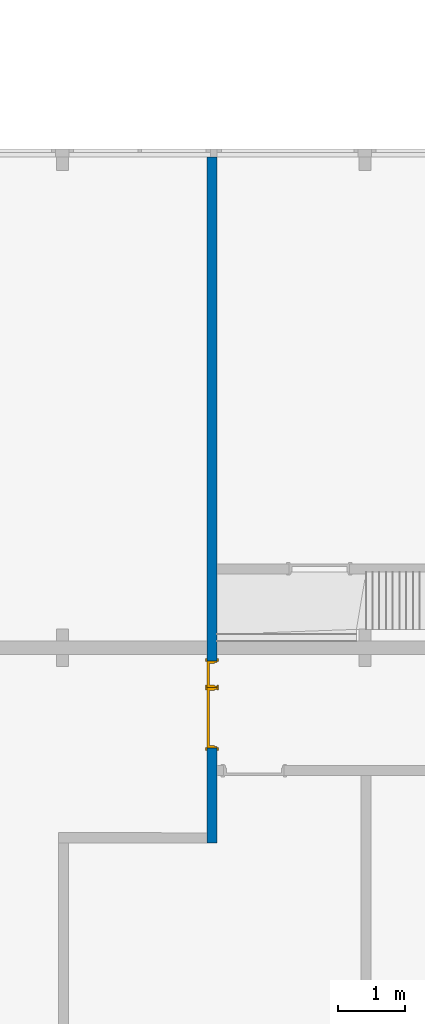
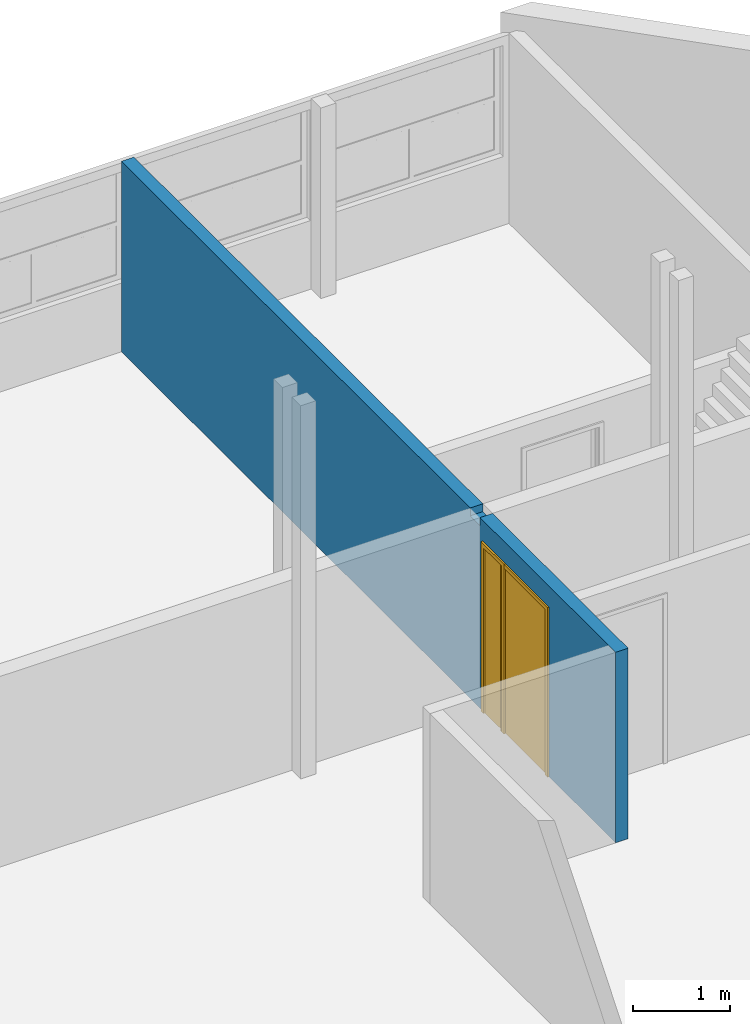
# One storey, part 10 of 48: 2 doors, 1 wall, 2 openings.
"""IFC2X3 building model written with IfcOpenShell, lengths in millimetres."""

import ifcopenshell
import ifcopenshell.guid

model = None  # the IFC model being written
_history = None  # IfcOwnerHistory: only IFC2X3 demands one
_inside = {}  # id of a spatial element -> (the spatial element, [elements in it])
_under = {}  # id of a project, library or spatial element -> (it, [spatial elements below it])
_declared = {}  # id of a project -> (the project, [libraries it declares])
_typed = {}  # id of a type object -> (the type object, [elements of that type])
_made_of = {}  # id of a material, layer set ... -> (it, [elements and type objects made of it])


def new_model(schema):
    """Start an empty IFC model of exactly this schema.

    Asked for "IFC4X3", IfcOpenShell would pick the latest addendum, in which some entities
    have other attributes; the version numbers below select the first issue.
    IFC2X3 requires an IfcOwnerHistory on every rooted entity: one is made here for all.
    """
    global model, _history
    if schema == "IFC4X3":
        model = ifcopenshell.file(schema_version=(4, 3, 0, 0))
    else:
        model = ifcopenshell.file(schema=schema)
    _inside.clear()
    _under.clear()
    _declared.clear()
    _typed.clear()
    _made_of.clear()
    _history = None
    if model.schema == "IFC2X3":
        org = make("IfcOrganization", Name="unknown")
        user = make(
            "IfcPersonAndOrganization",
            ThePerson=make("IfcPerson", FamilyName="unknown"),
            TheOrganization=org,
        )
        app = make(
            "IfcApplication",
            ApplicationDeveloper=org,
            Version="unknown",
            ApplicationFullName="unknown",
            ApplicationIdentifier="unknown",
        )
        _history = make(
            "IfcOwnerHistory",
            OwningUser=user,
            OwningApplication=app,
            ChangeAction="ADDED",
            CreationDate=0,
        )
    return model


def make(cls, **values):
    """One entity of the class cls with the attributes given. An attribute that is None is left unset."""
    return model.create_entity(
        cls, **{name: value for name, value in values.items() if value is not None}
    )


def entity(cls, *values):
    """Any entity or typed value of the class cls, its attributes in the order of the schema. None: left unset."""
    e = model.create_entity(cls)
    for i, value in enumerate(values):
        if value is not None:
            e[i] = value
    return e


def rooted(cls, **values):
    """An entity with a GlobalId (a new one), such as an element, a storey or a relation."""
    return make(cls, GlobalId=ifcopenshell.guid.new(), OwnerHistory=_history, **values)


def si_unit(unit_type, name, prefix=None):
    """IfcSIUnit, for example si_unit("LENGTHUNIT", "METRE", prefix="MILLI")."""
    return make("IfcSIUnit", UnitType=unit_type, Prefix=prefix, Name=name)


def converted_unit(unit_type, name, factor, base, dimensions=None, offset=None):
    """IfcConversionBasedUnit, such as the inch: factor (a typed value) times the base unit."""
    return make(
        "IfcConversionBasedUnit"
        if offset is None
        else "IfcConversionBasedUnitWithOffset",
        ConversionOffset=offset,
        Dimensions=None
        if dimensions is None
        else entity("IfcDimensionalExponents", *dimensions),
        UnitType=unit_type,
        Name=name,
        ConversionFactor=make(
            "IfcMeasureWithUnit", ValueComponent=factor, UnitComponent=base
        ),
    )


def derived_unit(unit_type, elements):
    """IfcDerivedUnit: a product of units, each with its exponent."""
    return make(
        "IfcDerivedUnit",
        Elements=[
            make("IfcDerivedUnitElement", Unit=unit, Exponent=power)
            for unit, power in elements
        ],
        UnitType=unit_type,
    )


def money_unit(currency):
    """IfcMonetaryUnit."""
    return make("IfcMonetaryUnit", Currency=currency)


def assignment(units):
    """IfcUnitAssignment: the units of a project."""
    return None if units is None else make("IfcUnitAssignment", Units=units)


def point(xyz):
    """IfcCartesianPoint."""
    return None if xyz is None else make("IfcCartesianPoint", Coordinates=xyz)


def direction(xyz):
    """IfcDirection."""
    return None if xyz is None else make("IfcDirection", DirectionRatios=xyz)


def frame(location, z_axis=None, x_axis=None):
    """IfcAxis2Placement3D, a coordinate frame: its origin and axes. An axis left out is left unset."""
    return make(
        "IfcAxis2Placement3D",
        Location=point(location),
        Axis=direction(z_axis),
        RefDirection=direction(x_axis),
    )


def origin_with_axes():
    """The frame at (0, 0, 0) with the z axis (0, 0, 1) and the x axis (1, 0, 0) written out."""
    return frame((0.0, 0.0, 0.0), z_axis=(0.0, 0.0, 1.0), x_axis=(1.0, 0.0, 0.0))


def place(relative_to, where):
    """IfcLocalPlacement: puts the frame where relative to a parent placement (None: the world)."""
    return make(
        "IfcLocalPlacement", PlacementRelTo=relative_to, RelativePlacement=where
    )


def context(
    kind, dimensions, precision=None, world=None, true_north=None, identifier=None
):
    """IfcGeometricRepresentationContext, for example the 3D "Model" context."""
    return make(
        "IfcGeometricRepresentationContext",
        ContextIdentifier=identifier,
        ContextType=kind,
        CoordinateSpaceDimension=dimensions,
        Precision=precision,
        WorldCoordinateSystem=world,
        TrueNorth=true_north,
    )


def subcontext(parent, identifier, kind, view, scale=None):
    """IfcGeometricRepresentationSubContext, for example "Body" below "Model"."""
    return make(
        "IfcGeometricRepresentationSubContext",
        ContextIdentifier=identifier,
        ContextType=kind,
        ParentContext=parent,
        TargetScale=scale,
        TargetView=view,
    )


def project(units=None, contexts=None):
    """IfcProject with its units and contexts."""
    return rooted(
        "IfcProject",
        Name="project",
        RepresentationContexts=contexts,
        UnitsInContext=assignment(units),
    )


def spatial(cls, under=None, at=None, **own):
    """A site, building, storey or space (cls), placed at a placement, below another one or the project."""
    s = rooted(cls, ObjectPlacement=at, **own)
    if under is not None:
        _under.setdefault(under.id(), (under, []))[1].append(s)
    return s


def faces_of(points, faces, orient=None, outer=None):
    """IfcFace entities. A face is a list of loops; a loop is a list of indices into points, from 0.

    orient and outer hold one flag for each loop. By default every Orientation is true, the
    first loop of a face is its IfcFaceOuterBound and the others are IfcFaceBound.
    """
    made = []
    for i, loops in enumerate(faces):
        bounds = []
        for j, loop in enumerate(loops):
            is_outer = j == 0 if outer is None else outer[i][j]
            bounds.append(
                make(
                    "IfcFaceOuterBound" if is_outer else "IfcFaceBound",
                    Bound=make("IfcPolyLoop", Polygon=[points[k] for k in loop]),
                    Orientation=True if orient is None else orient[i][j],
                )
            )
        made.append(make("IfcFace", Bounds=bounds))
    return made


def faceted_brep(points, faces, orient=None, outer=None, voids=None):
    """IfcFacetedBrep: a solid bounded by flat faces; with voids (closed shells), ...WithVoids."""
    shared = [point(p) for p in points]
    hull = make("IfcClosedShell", CfsFaces=faces_of(shared, faces, orient, outer))
    if voids is None:
        return make("IfcFacetedBrep", Outer=hull)
    return make(
        "IfcFacetedBrepWithVoids",
        Outer=hull,
        Voids=[
            make(cls, CfsFaces=faces_of(shared, fs, o, b)) for cls, fs, o, b in voids
        ],
    )


def shape(context_of_items, identifier, shape_type, items):
    """IfcShapeRepresentation: the items that make up one representation, for example the "Body"."""
    return make(
        "IfcShapeRepresentation",
        ContextOfItems=context_of_items,
        RepresentationIdentifier=identifier,
        RepresentationType=shape_type,
        Items=items,
    )


def source(mapping_origin, context_of_items, identifier, shape_type, items):
    """IfcRepresentationMap: a shape defined once, which mapped items show again and again."""
    return make(
        "IfcRepresentationMap",
        MappingOrigin=mapping_origin,
        MappedRepresentation=shape(context_of_items, identifier, shape_type, items),
    )


def transform(
    local_origin,
    x_axis=None,
    y_axis=None,
    z_axis=None,
    scale=None,
    scale2=None,
    scale3=None,
    uniform=True,
):
    """IfcCartesianTransformationOperator3D, or its non-uniform kind. x_axis, y_axis, z_axis: its Axis1, 2, 3."""
    if uniform:
        return make(
            "IfcCartesianTransformationOperator3D",
            Axis1=direction(x_axis),
            Axis2=direction(y_axis),
            LocalOrigin=point(local_origin),
            Scale=scale,
            Axis3=direction(z_axis),
        )
    return make(
        "IfcCartesianTransformationOperator3DnonUniform",
        Axis1=direction(x_axis),
        Axis2=direction(y_axis),
        LocalOrigin=point(local_origin),
        Scale=scale,
        Axis3=direction(z_axis),
        Scale2=scale2,
        Scale3=scale3,
    )


def mapped(mapping_source, mapping_target):
    """IfcMappedItem: shows the shape of a source again, moved by a transform."""
    return make(
        "IfcMappedItem", MappingSource=mapping_source, MappingTarget=mapping_target
    )


def material(Name=None, Category=None):
    """IfcMaterial."""
    return make("IfcMaterial", Name=Name, Category=Category)


def made_of(thing, what):
    """Note that an element or type object is made of a material, layer set ...; save() writes the relation."""
    if what is not None:
        _made_of.setdefault(what.id(), (what, []))[1].append(thing)
    return thing


def type_object(cls, material=None, **own):
    """A type object (cls), such as IfcWallType, which elements share."""
    return made_of(rooted(cls, **own), material)


def element(
    cls,
    number,
    at=None,
    inside=None,
    cuts=None,
    type_object=None,
    material=None,
    context=None,
    identifier="Body",
    shape_type=None,
    held_by="IfcProductDefinitionShape",
    body=None,
    shapes=None,
    **own,
):
    """One element of the class cls, such as IfcWall. Its Tag is "e" and its number.

    at: its placement. inside: the storey or other place that contains it. cuts: it is an
    opening in that element (IfcRelVoidsElement). A single representation is given by context,
    identifier, shape_type and body (its items); several are given by shapes. held_by: the class
    of the entity that holds the representations. save() writes the other relations.
    """
    e = rooted(cls, Tag="e%d" % number, ObjectPlacement=at, **own)
    if body is not None:
        shapes = [shape(context, identifier, shape_type, body)]
    if shapes is not None:
        e.Representation = make(held_by, Representations=shapes)
    if inside is not None:
        _inside.setdefault(inside.id(), (inside, []))[1].append(e)
    if cuts is not None:
        rooted(
            "IfcRelVoidsElement", RelatingBuildingElement=cuts, RelatedOpeningElement=e
        )
    if type_object is not None:
        _typed.setdefault(type_object.id(), (type_object, []))[1].append(e)
    return made_of(e, material)


def fill(opening, filler):
    """IfcRelFillsElement: the door or window that sits in an opening."""
    return rooted(
        "IfcRelFillsElement",
        RelatingOpeningElement=opening,
        RelatedBuildingElement=filler,
    )


def aggregate(whole, parts):
    """IfcRelAggregates: a whole, such as a stair, and the parts it consists of."""
    return rooted("IfcRelAggregates", RelatingObject=whole, RelatedObjects=parts)


def save(model, path):
    """Write the relations noted so far, then the file.

    IfcRelAggregates (storeys below a building ...), IfcRelContainedInSpatialStructure (elements
    in a storey), IfcRelDefinesByType, IfcRelAssociatesMaterial and IfcRelDeclares: one each for
    every whole, place, type object, material and project.
    """
    for whole, parts in _under.values():
        aggregate(whole, parts)
    for where, things in _inside.values():
        rooted(
            "IfcRelContainedInSpatialStructure",
            RelatedElements=things,
            RelatingStructure=where,
        )
    for kind, things in _typed.values():
        rooted("IfcRelDefinesByType", RelatedObjects=things, RelatingType=kind)
    for what, things in _made_of.values():
        rooted("IfcRelAssociatesMaterial", RelatedObjects=things, RelatingMaterial=what)
    for by, libraries in _declared.values():
        rooted("IfcRelDeclares", RelatingContext=by, RelatedDefinitions=libraries)
    model.write(path)


model = new_model("IFC2X3")

# Units and contexts
model_context = context("Model", 3, precision=0.01, world=origin_with_axes(), true_north=direction((0.0, 1.0)))
body_context = subcontext(model_context, "Body", "Model", "MODEL_VIEW")
ifc_project = project(units=[si_unit("LENGTHUNIT", "METRE", prefix="MILLI"), si_unit("AREAUNIT", "SQUARE_METRE"), si_unit("VOLUMEUNIT", "CUBIC_METRE"), converted_unit("PLANEANGLEUNIT", "DEGREE", entity("IfcPlaneAngleMeasure", 0.0174532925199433), si_unit("PLANEANGLEUNIT", "RADIAN"), dimensions=[0, 0, 0, 0, 0, 0, 0]), money_unit("USD"), converted_unit("TIMEUNIT", "Year", entity("IfcTimeMeasure", 31557600.0), si_unit("TIMEUNIT", "SECOND"), dimensions=[0, 0, 1, 0, 0, 0, 0]), si_unit("MASSUNIT", "GRAM", prefix="KILO"), si_unit("THERMODYNAMICTEMPERATUREUNIT", "DEGREE_CELSIUS"), si_unit("LUMINOUSINTENSITYUNIT", "LUMEN"), si_unit("ENERGYUNIT", "JOULE", prefix="MEGA"), derived_unit("THERMALCONDUCTANCEUNIT", [(si_unit("POWERUNIT", "WATT"), 1), (si_unit("LENGTHUNIT", "METRE"), -1), (si_unit("THERMODYNAMICTEMPERATUREUNIT", "KELVIN"), -1)]), derived_unit("SPECIFICHEATCAPACITYUNIT", [(si_unit("ENERGYUNIT", "JOULE"), 1), (si_unit("MASSUNIT", "GRAM", prefix="KILO"), -1), (si_unit("THERMODYNAMICTEMPERATUREUNIT", "KELVIN"), -1)]), derived_unit("MASSDENSITYUNIT", [(si_unit("MASSUNIT", "GRAM", prefix="KILO"), 1), (si_unit("VOLUMEUNIT", "CUBIC_METRE"), -1)])], contexts=[model_context])

# Site, building, storey
site_placement = place(None, origin_with_axes())
site = spatial("IfcSite", under=ifc_project, at=site_placement, Name="Site", CompositionType="ELEMENT")
building_placement = place(site_placement, origin_with_axes())
building = spatial("IfcBuilding", under=site, at=building_placement, Name="Building", CompositionType="ELEMENT")
storey_placement = place(building_placement, frame((0.0, 0.0, 3300.0), z_axis=(0.0, 0.0, 1.0), x_axis=(1.0, 0.0, 0.0)))
storey = spatial("IfcBuildingStorey", under=building, at=storey_placement, Name="1 ETG", CompositionType="ELEMENT", Elevation=3300.0)

# Wall, openings, doors
ifc_material = material(Name="GENERIC - INTERNAL FILLER")
wall_type = type_object("IfcWallType", Name="GENERIC - INTERNAL FILLER 150", PredefinedType="NOTDEFINED")
wall_placement = place(storey_placement, frame((15800.00000000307, 21799.96990850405, 0.0), z_axis=(0.0, 0.0, 1.0), x_axis=(0.0, -1.0, 0.0)))
wall = element("IfcWall", 1, at=wall_placement, inside=storey, type_object=wall_type, material=ifc_material, Name="SW - 001", context=body_context, shape_type="Brep", body=[
    faceted_brep([(7491.73903015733, 0.0, 2100.0), (7491.73903015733, 0.0, 0.0), (0.0, 0.0, 0.0), (0.0, 0.0, 2400.0), (7199.96990850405, 0.0, 2400.0), (7199.96990850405, 0.0, 2300.000000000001), (7399.969908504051, 0.0, 2300.000000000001), (7399.969908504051, 0.0, 2400.0), (10200.0, 0.0, 2400.0), (10200.0, 0.0, 0.0), (8791.739030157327, 0.0, 0.0), (8791.739030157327, 0.0, 2100.0), (7491.73903015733, -150.0000000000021, 0.0), (7491.73903015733, -150.0000000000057, 2100.0), (-0.0002504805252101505, -149.9999999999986, 0.0), (-0.0002504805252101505, -149.9999999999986, 2400.0), (7199.96990850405, -149.9999999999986, 2400.0), (7199.96990850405, -150.0000000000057, 2300.000000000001), (7399.969908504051, -150.0000000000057, 2300.000000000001), (7399.969908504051, -149.9999999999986, 2400.0), (10199.9375350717, -149.9999999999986, 2400.0), (10199.9375350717, -150.0000000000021, 0.0), (8791.739030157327, -150.0000000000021, 0.0), (8791.739030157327, -150.0000000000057, 2100.0)], [[[0, 1, 2, 3, 4, 5, 6, 7, 8, 9, 10, 11]], [[12, 1, 0, 13]], [[2, 1, 12, 14]], [[14, 15, 3, 2]], [[16, 4, 3, 15]], [[5, 4, 16, 17]], [[6, 5, 17, 18]], [[19, 7, 6, 18]], [[7, 19, 20, 8]], [[8, 20, 21, 9]], [[22, 10, 9, 21]], [[11, 10, 22, 23]], [[23, 13, 0, 11]], [[12, 13, 23, 22, 21, 20, 19, 18, 17, 16, 15, 14]]]),
])
opening_1_placement = place(wall_placement, frame((8341.739030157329, 0.0, 0.0), z_axis=(0.0, 0.0, 1.0), x_axis=(1.0, 0.0, 0.0)))
opening_1 = element("IfcOpeningElement", 2, at=opening_1_placement, cuts=wall, Name="DOO - 002", context=body_context, shape_type="Brep", body=[
    faceted_brep([(-449.9999999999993, -150.0000000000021, 0.0), (-449.9999999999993, -150.0000000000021, 2100.0), (-449.9999999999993, 0.0, 2100.0), (-449.9999999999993, 0.0, 0.0), (449.9999999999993, -150.0000000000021, 2100.0), (-487.0000000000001, -150.0000000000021, 0.0), (-487.0000000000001, -150.0000000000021, 2137.0), (487.0000000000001, -150.0000000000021, 2137.0), (487.0000000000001, -150.0000000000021, 0.0), (449.9999999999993, -150.0000000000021, 0.0), (449.9999999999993, 0.0, 2100.0), (449.9999999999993, 0.0, 0.0), (487.0000000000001, 0.0, 0.0), (487.0000000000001, 0.0, 2137.0), (-487.0000000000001, 0.0, 2137.0), (-487.0000000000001, 0.0, 0.0), (-449.9999999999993, -150.9999999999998, 0.0), (-449.9999999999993, 0.9999999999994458, 0.0), (449.9999999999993, 0.9999999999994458, 0.0), (449.9999999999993, -150.9999999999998, 0.0), (-487.0000000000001, -150.9999999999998, 0.0), (-487.0000000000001, -150.9999999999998, 2137.0), (487.0000000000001, -150.9999999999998, 2137.0), (487.0000000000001, -150.9999999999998, 0.0), (487.0000000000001, 0.9999999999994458, 0.0), (487.0000000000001, 0.9999999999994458, 2137.0), (-487.0000000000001, 0.9999999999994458, 2137.0), (-487.0000000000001, 0.9999999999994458, 0.0), (-449.9999999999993, -150.9999999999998, 2100.0), (449.9999999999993, -150.9999999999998, 2100.0)], [[[0, 1, 2, 3]], [[4, 1, 0, 5, 6, 7, 8, 9]], [[1, 4, 10, 2]], [[3, 2, 10, 11, 12, 13, 14, 15]], [[16, 0, 3, 17, 18, 11, 9, 19]], [[0, 16, 20, 5]], [[6, 5, 20, 21]], [[7, 6, 21, 22]], [[8, 7, 22, 23]], [[19, 9, 8, 23]], [[4, 9, 11, 10]], [[11, 18, 24, 12]], [[13, 12, 24, 25]], [[14, 13, 25, 26]], [[15, 14, 26, 27]], [[17, 3, 15, 27]], [[17, 27, 26, 25, 24, 18]], [[28, 16, 19, 29]], [[16, 28, 29, 19, 23, 22, 21, 20]]]),
])
opening_2_placement = place(wall_placement, frame((7691.73903015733, 0.0, 0.0), z_axis=(0.0, 0.0, 1.0), x_axis=(1.0, 0.0, 0.0)))
opening_2 = element("IfcOpeningElement", 3, at=opening_2_placement, cuts=wall, Name="DOO - 002", context=body_context, shape_type="Brep", body=[
    faceted_brep([(-199.9999999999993, -150.0000000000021, 0.0), (-199.9999999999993, -150.0000000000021, 2100.0), (-199.9999999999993, 0.0, 2100.0), (-199.9999999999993, 0.0, 0.0), (199.9999999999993, -150.0000000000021, 2100.0), (-236.9999999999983, -150.0000000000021, 0.0), (-236.9999999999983, -150.0000000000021, 2137.0), (236.9999999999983, -150.0000000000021, 2137.0), (236.9999999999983, -150.0000000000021, 0.0), (199.9999999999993, -150.0000000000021, 0.0), (199.9999999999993, 0.0, 2100.0), (199.9999999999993, 0.0, 0.0), (236.9999999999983, 0.0, 0.0), (236.9999999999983, 0.0, 2137.0), (-236.9999999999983, 0.0, 2137.0), (-236.9999999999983, 0.0, 0.0), (-199.9999999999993, -150.9999999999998, 0.0), (-199.9999999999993, 0.9999999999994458, 0.0), (199.9999999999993, 0.9999999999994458, 0.0), (199.9999999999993, -150.9999999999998, 0.0), (-236.9999999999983, -150.9999999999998, 0.0), (-236.9999999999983, -150.9999999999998, 2137.0), (236.9999999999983, -150.9999999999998, 2137.0), (236.9999999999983, -150.9999999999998, 0.0), (236.9999999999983, 0.9999999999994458, 0.0), (236.9999999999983, 0.9999999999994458, 2137.0), (-236.9999999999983, 0.9999999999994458, 2137.0), (-236.9999999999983, 0.9999999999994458, 0.0), (-199.9999999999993, -150.9999999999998, 2100.0), (199.9999999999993, -150.9999999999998, 2100.0)], [[[0, 1, 2, 3]], [[4, 1, 0, 5, 6, 7, 8, 9]], [[1, 4, 10, 2]], [[3, 2, 10, 11, 12, 13, 14, 15]], [[16, 0, 3, 17, 18, 11, 9, 19]], [[0, 16, 20, 5]], [[6, 5, 20, 21]], [[7, 6, 21, 22]], [[8, 7, 22, 23]], [[19, 9, 8, 23]], [[4, 9, 11, 10]], [[11, 18, 24, 12]], [[13, 12, 24, 25]], [[14, 13, 25, 26]], [[15, 14, 26, 27]], [[17, 3, 15, 27]], [[17, 27, 26, 25, 24, 18]], [[28, 16, 19, 29]], [[16, 28, 29, 19, 23, 22, 21, 20]]]),
])
door_style_1 = type_object("IfcDoorStyle", Name="Dør", ConstructionType="NOTDEFINED", OperationType="SINGLE_SWING_LEFT", ParameterTakesPrecedence=False, Sizeable=False)
shared_shape = source(origin_with_axes(), body_context, "Body", "Brep", [
    faceted_brep([(450.0, -115.0, 0.0), (450.0, -150.0, 0.0), (425.0, -150.0, 0.0), (425.0, -115.0, 0.0), (450.0, -115.0000000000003, 2100.0), (450.0, -150.0000000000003, 2100.0), (425.0, -150.0000000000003, 2075.0), (425.0, -115.0000000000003, 2075.0)], [[[0, 1, 2, 3]], [[4, 5, 1, 0]], [[1, 5, 6, 2]], [[3, 2, 6, 7]], [[0, 3, 7, 4]], [[7, 6, 5, 4]]]),
    faceted_brep([(-450.0, -115.0000000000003, 2100.0), (-450.0, -150.0000000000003, 2100.0), (-425.0, -150.0000000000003, 2075.0), (-425.0, -115.0000000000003, 2075.0), (-450.0, -115.0, 0.0), (-450.0, -150.0, 0.0), (-425.0, -150.0, 0.0), (-425.0, -115.0, 0.0)], [[[0, 1, 2, 3]], [[4, 5, 1, 0]], [[1, 5, 6, 2]], [[3, 2, 6, 7]], [[0, 3, 7, 4]], [[7, 6, 5, 4]]]),
    faceted_brep([(425.0, -115.0000000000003, 2075.0), (425.0, -150.0000000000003, 2075.0), (-425.0, -150.0000000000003, 2075.0), (-425.0, -115.0000000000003, 2075.0), (450.0, -115.0000000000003, 2100.0), (450.0, -150.0000000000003, 2100.0), (-450.0, -150.0000000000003, 2100.0), (-450.0, -115.0000000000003, 2100.0)], [[[0, 1, 2, 3]], [[4, 5, 1, 0]], [[1, 5, 6, 2]], [[3, 2, 6, 7]], [[0, 3, 7, 4]], [[7, 6, 5, 4]]]),
    faceted_brep([(487.0, -169.0, 0.0), (437.0, -169.0, 0.0), (437.0, -150.0, 0.0), (487.0, -150.0, 0.0), (487.0, -169.0000000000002, 2137.0), (437.0, -169.0000000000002, 2087.0), (437.0, -150.0000000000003, 2087.0), (487.0, -150.0000000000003, 2137.0)], [[[0, 1, 2, 3]], [[0, 4, 5, 1]], [[1, 5, 6, 2]], [[3, 2, 6, 7]], [[4, 0, 3, 7]], [[5, 4, 7, 6]]]),
    faceted_brep([(-487.0, -169.0000000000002, 2137.0), (-437.0, -169.0000000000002, 2087.0), (-437.0, -150.0000000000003, 2087.0), (-487.0, -150.0000000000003, 2137.0), (-487.0, -169.0, 0.0), (-437.0, -169.0, 0.0), (-437.0, -150.0, 0.0), (-487.0, -150.0, 0.0)], [[[0, 1, 2, 3]], [[0, 4, 5, 1]], [[1, 5, 6, 2]], [[3, 2, 6, 7]], [[4, 0, 3, 7]], [[5, 4, 7, 6]]]),
    faceted_brep([(487.0, -169.0000000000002, 2137.0), (437.0, -169.0000000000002, 2087.0), (437.0, -150.0000000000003, 2087.0), (487.0, -150.0000000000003, 2137.0), (-487.0, -169.0000000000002, 2137.0), (-437.0, -169.0000000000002, 2087.0), (-437.0, -150.0000000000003, 2087.0), (-487.0, -150.0000000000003, 2137.0)], [[[0, 1, 2, 3]], [[0, 4, 5, 1]], [[1, 5, 6, 2]], [[3, 2, 6, 7]], [[4, 0, 3, 7]], [[5, 4, 7, 6]]]),
    faceted_brep([(487.0, 19.0, 0.0), (487.0, 0.0, 0.0), (437.0, 0.0, 0.0), (437.0, 19.0, 0.0), (487.0, 18.99999999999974, 2137.0), (487.0, 0.0, 2137.0), (437.0, 0.0, 2087.0), (437.0, 18.99999999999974, 2087.0)], [[[0, 1, 2, 3]], [[4, 5, 1, 0]], [[1, 5, 6, 2]], [[3, 2, 6, 7]], [[0, 3, 7, 4]], [[7, 6, 5, 4]]]),
    faceted_brep([(-487.0, 18.99999999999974, 2137.0), (-487.0, 0.0, 2137.0), (-437.0, 0.0, 2087.0), (-437.0, 18.99999999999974, 2087.0), (-487.0, 19.0, 0.0), (-487.0, 0.0, 0.0), (-437.0, 0.0, 0.0), (-437.0, 19.0, 0.0)], [[[0, 1, 2, 3]], [[4, 5, 1, 0]], [[1, 5, 6, 2]], [[3, 2, 6, 7]], [[0, 3, 7, 4]], [[7, 6, 5, 4]]]),
    faceted_brep([(487.0, 18.99999999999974, 2137.0), (487.0, 0.0, 2137.0), (437.0, 0.0, 2087.0), (437.0, 18.99999999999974, 2087.0), (-487.0, 18.99999999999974, 2137.0), (-487.0, 0.0, 2137.0), (-437.0, 0.0, 2087.0), (-437.0, 18.99999999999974, 2087.0)], [[[0, 1, 2, 3]], [[4, 5, 1, 0]], [[1, 5, 6, 2]], [[3, 2, 6, 7]], [[0, 3, 7, 4]], [[7, 6, 5, 4]]]),
    faceted_brep([(450.0, 0.0, 0.0), (450.0, -115.0, 0.0), (410.0000000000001, -115.0, 0.0), (410.0000000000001, 0.0, 0.0), (450.0, 0.0, 2060.0), (450.0, -115.0, 2060.0), (410.0000000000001, -115.0, 2060.0), (410.0000000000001, 0.0, 2060.0)], [[[0, 1, 2, 3]], [[4, 5, 1, 0]], [[1, 5, 6, 2]], [[3, 2, 6, 7]], [[0, 3, 7, 4]], [[7, 6, 5, 4]]]),
    faceted_brep([(-450.0, 0.0, 0.0), (-450.0, -115.0, 0.0), (-450.0, -115.0, 2060.0), (-450.0, 0.0, 2060.0), (-410.0000000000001, 0.0, 0.0), (-410.0000000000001, -115.0, 0.0), (-410.0000000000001, -115.0, 2060.0), (-410.0000000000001, 0.0, 2060.0)], [[[0, 1, 2, 3]], [[4, 5, 1, 0]], [[1, 5, 6, 2]], [[3, 2, 6, 7]], [[0, 3, 7, 4]], [[7, 6, 5, 4]]]),
    faceted_brep([(450.0, 0.0, 2100.0), (450.0, -115.0, 2100.0), (450.0, -115.0, 2060.0), (450.0, 0.0, 2060.0), (-450.0, 0.0, 2100.0), (-450.0, -115.0, 2100.0), (-450.0, -115.0, 2060.0), (-410.0000000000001, -115.0, 2060.0), (410.0000000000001, -115.0, 2060.0), (410.0000000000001, 0.0, 2060.0), (-410.0000000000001, 0.0, 2060.0), (-450.0, 0.0, 2060.0)], [[[0, 1, 2, 3]], [[4, 5, 1, 0]], [[1, 5, 6, 7, 8, 2]], [[3, 2, 8, 9]], [[0, 3, 9, 10, 11, 4]], [[11, 6, 5, 4]], [[10, 7, 6, 11]], [[9, 8, 7, 10]]]),
    faceted_brep([(-409.9999999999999, 0.0, 0.0), (410.0000000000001, 0.0, 0.0), (410.0000000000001, -40.0, 0.0), (-409.9999999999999, -40.0, 0.0), (-409.9999999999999, 0.0, 2060.0), (410.0000000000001, 0.0, 2060.0), (410.0000000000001, -40.00000000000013, 2060.0), (-409.9999999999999, -40.00000000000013, 2060.0)], [[[0, 1, 2, 3]], [[0, 4, 5, 1]], [[1, 5, 6, 2]], [[3, 2, 6, 7]], [[4, 0, 3, 7]], [[5, 4, 7, 6]]]),
])
door_1_placement = place(opening_1_placement, frame((449.9999999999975, 0.0, 0.0), z_axis=(0.0, 0.0, 1.0), x_axis=(-1.0, 0.0, 0.0)))
door_1 = element("IfcDoor", 4, at=door_1_placement, inside=storey, type_object=door_style_1, Name="DOO - 002", ObjectType="DOOR", OverallHeight=2100.0, OverallWidth=900.0, context=body_context, shape_type="MappedRepresentation", body=[
    mapped(shared_shape, transform((449.9999999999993, 150.0000000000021, 0.0))),
])
fill(opening_1, door_1)
door_style_2 = type_object("IfcDoorStyle", Name="Dør", ConstructionType="NOTDEFINED", OperationType="SINGLE_SWING_RIGHT", ParameterTakesPrecedence=False, Sizeable=False)
door_2_placement = place(opening_2_placement, frame((199.9999999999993, 0.0, 0.0), z_axis=(0.0, 0.0, 1.0), x_axis=(-1.0, 0.0, 0.0)))
door_2 = element("IfcDoor", 5, at=door_2_placement, inside=storey, type_object=door_style_2, Name="DOO - 002", ObjectType="DOOR", OverallHeight=2100.0, OverallWidth=400.0, context=body_context, shape_type="Brep", body=[
    faceted_brep([(0.0, 35.00000000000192, 0.0), (25.00000000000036, 35.00000000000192, 0.0), (25.00000000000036, 0.0, 0.0), (0.0, 0.0, 0.0), (0.0, 35.00000000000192, 2100.0), (25.00000000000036, 35.00000000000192, 2075.0), (25.00000000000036, 0.0, 2075.0), (0.0, 0.0, 2100.0)], [[[0, 1, 2, 3]], [[0, 4, 5, 1]], [[1, 5, 6, 2]], [[3, 2, 6, 7]], [[4, 0, 3, 7]], [[5, 4, 7, 6]]]),
    faceted_brep([(399.9999999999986, 35.00000000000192, 2100.0), (374.9999999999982, 35.00000000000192, 2075.0), (374.9999999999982, 0.0, 2075.0), (399.9999999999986, 0.0, 2100.0), (399.9999999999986, 35.00000000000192, 0.0), (374.9999999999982, 35.00000000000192, 0.0), (374.9999999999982, 0.0, 0.0), (399.9999999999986, 0.0, 0.0)], [[[0, 1, 2, 3]], [[0, 4, 5, 1]], [[1, 5, 6, 2]], [[3, 2, 6, 7]], [[4, 0, 3, 7]], [[5, 4, 7, 6]]]),
    faceted_brep([(25.00000000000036, 35.00000000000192, 2075.0), (374.9999999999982, 35.00000000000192, 2075.0), (374.9999999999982, 0.0, 2075.0), (25.00000000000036, 0.0, 2075.0), (0.0, 35.00000000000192, 2100.0), (399.9999999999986, 35.00000000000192, 2100.0), (399.9999999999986, 0.0, 2100.0), (0.0, 0.0, 2100.0)], [[[0, 1, 2, 3]], [[0, 4, 5, 1]], [[1, 5, 6, 2]], [[3, 2, 6, 7]], [[4, 0, 3, 7]], [[5, 4, 7, 6]]]),
    faceted_brep([(-36.99999999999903, -18.99999999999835, 0.0), (-36.99999999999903, 0.0, 0.0), (12.9999999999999, 0.0, 0.0), (12.9999999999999, -18.99999999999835, 0.0), (-36.99999999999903, -18.99999999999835, 2137.0), (-36.99999999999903, 0.0, 2137.0), (12.9999999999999, 0.0, 2087.0), (12.9999999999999, -18.99999999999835, 2087.0)], [[[0, 1, 2, 3]], [[4, 5, 1, 0]], [[1, 5, 6, 2]], [[3, 2, 6, 7]], [[0, 3, 7, 4]], [[7, 6, 5, 4]]]),
    faceted_brep([(436.9999999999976, -18.99999999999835, 2137.0), (436.9999999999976, 0.0, 2137.0), (386.9999999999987, 0.0, 2087.0), (386.9999999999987, -18.99999999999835, 2087.0), (436.9999999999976, -18.99999999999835, 0.0), (436.9999999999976, 0.0, 0.0), (386.9999999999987, 0.0, 0.0), (386.9999999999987, -18.99999999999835, 0.0)], [[[0, 1, 2, 3]], [[4, 5, 1, 0]], [[1, 5, 6, 2]], [[3, 2, 6, 7]], [[0, 3, 7, 4]], [[7, 6, 5, 4]]]),
    faceted_brep([(-36.99999999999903, -18.99999999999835, 2137.0), (-36.99999999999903, 0.0, 2137.0), (12.9999999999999, 0.0, 2087.0), (12.9999999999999, -18.99999999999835, 2087.0), (436.9999999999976, -18.99999999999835, 2137.0), (436.9999999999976, 0.0, 2137.0), (386.9999999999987, 0.0, 2087.0), (386.9999999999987, -18.99999999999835, 2087.0)], [[[0, 1, 2, 3]], [[4, 5, 1, 0]], [[1, 5, 6, 2]], [[3, 2, 6, 7]], [[0, 3, 7, 4]], [[7, 6, 5, 4]]]),
    faceted_brep([(-36.99999999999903, 169.0000000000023, 0.0), (12.9999999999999, 169.0000000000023, 0.0), (12.9999999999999, 150.0000000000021, 0.0), (-36.99999999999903, 150.0000000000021, 0.0), (-36.99999999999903, 169.0000000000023, 2137.0), (12.9999999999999, 169.0000000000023, 2087.0), (12.9999999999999, 150.0000000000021, 2087.0), (-36.99999999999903, 150.0000000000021, 2137.0)], [[[0, 1, 2, 3]], [[0, 4, 5, 1]], [[1, 5, 6, 2]], [[3, 2, 6, 7]], [[4, 0, 3, 7]], [[5, 4, 7, 6]]]),
    faceted_brep([(436.9999999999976, 169.0000000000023, 2137.0), (386.9999999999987, 169.0000000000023, 2087.0), (386.9999999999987, 150.0000000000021, 2087.0), (436.9999999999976, 150.0000000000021, 2137.0), (436.9999999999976, 169.0000000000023, 0.0), (386.9999999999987, 169.0000000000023, 0.0), (386.9999999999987, 150.0000000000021, 0.0), (436.9999999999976, 150.0000000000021, 0.0)], [[[0, 1, 2, 3]], [[0, 4, 5, 1]], [[1, 5, 6, 2]], [[3, 2, 6, 7]], [[4, 0, 3, 7]], [[5, 4, 7, 6]]]),
    faceted_brep([(-36.99999999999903, 169.0000000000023, 2137.0), (12.9999999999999, 169.0000000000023, 2087.0), (12.9999999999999, 150.0000000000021, 2087.0), (-36.99999999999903, 150.0000000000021, 2137.0), (436.9999999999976, 169.0000000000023, 2137.0), (386.9999999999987, 169.0000000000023, 2087.0), (386.9999999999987, 150.0000000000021, 2087.0), (436.9999999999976, 150.0000000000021, 2137.0)], [[[0, 1, 2, 3]], [[0, 4, 5, 1]], [[1, 5, 6, 2]], [[3, 2, 6, 7]], [[4, 0, 3, 7]], [[5, 4, 7, 6]]]),
    faceted_brep([(0.0, 150.0000000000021, 0.0), (40.00000000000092, 150.0000000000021, 0.0), (40.00000000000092, 35.00000000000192, 0.0), (0.0, 35.00000000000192, 0.0), (0.0, 150.0000000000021, 2060.0), (40.00000000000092, 150.0000000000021, 2060.0), (40.00000000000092, 35.00000000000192, 2060.0), (0.0, 35.00000000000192, 2060.0)], [[[0, 1, 2, 3]], [[0, 4, 5, 1]], [[1, 5, 6, 2]], [[3, 2, 6, 7]], [[4, 0, 3, 7]], [[5, 4, 7, 6]]]),
    faceted_brep([(399.9999999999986, 150.0000000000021, 0.0), (399.9999999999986, 150.0000000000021, 2060.0), (399.9999999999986, 35.00000000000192, 2060.0), (399.9999999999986, 35.00000000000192, 0.0), (359.9999999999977, 150.0000000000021, 0.0), (359.9999999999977, 150.0000000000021, 2060.0), (359.9999999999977, 35.00000000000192, 2060.0), (359.9999999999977, 35.00000000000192, 0.0)], [[[0, 1, 2, 3]], [[0, 4, 5, 1]], [[1, 5, 6, 2]], [[3, 2, 6, 7]], [[4, 0, 3, 7]], [[5, 4, 7, 6]]]),
    faceted_brep([(0.0, 150.0000000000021, 2100.0), (0.0, 150.0000000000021, 2060.0), (0.0, 35.00000000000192, 2060.0), (0.0, 35.00000000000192, 2100.0), (399.9999999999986, 150.0000000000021, 2100.0), (399.9999999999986, 150.0000000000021, 2060.0), (359.9999999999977, 150.0000000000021, 2060.0), (40.00000000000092, 150.0000000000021, 2060.0), (40.00000000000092, 35.00000000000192, 2060.0), (359.9999999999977, 35.00000000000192, 2060.0), (399.9999999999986, 35.00000000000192, 2060.0), (399.9999999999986, 35.00000000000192, 2100.0)], [[[0, 1, 2, 3]], [[0, 4, 5, 6, 7, 1]], [[1, 7, 8, 2]], [[3, 2, 8, 9, 10, 11]], [[4, 0, 3, 11]], [[5, 4, 11, 10]], [[6, 5, 10, 9]], [[7, 6, 9, 8]]]),
    faceted_brep([(359.9999999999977, 150.0000000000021, 0.0), (359.9999999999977, 110.0000000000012, 0.0), (40.00000000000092, 110.000000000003, 0.0), (40.00000000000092, 150.0000000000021, 0.0), (359.9999999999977, 150.0000000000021, 2060.0), (359.9999999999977, 110.0000000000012, 2060.0), (40.00000000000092, 110.0000000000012, 2060.0), (40.00000000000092, 150.0000000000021, 2060.0)], [[[0, 1, 2, 3]], [[4, 5, 1, 0]], [[1, 5, 6, 2]], [[3, 2, 6, 7]], [[0, 3, 7, 4]], [[7, 6, 5, 4]]]),
])
fill(opening_2, door_2)

save(model, "model.ifc")
